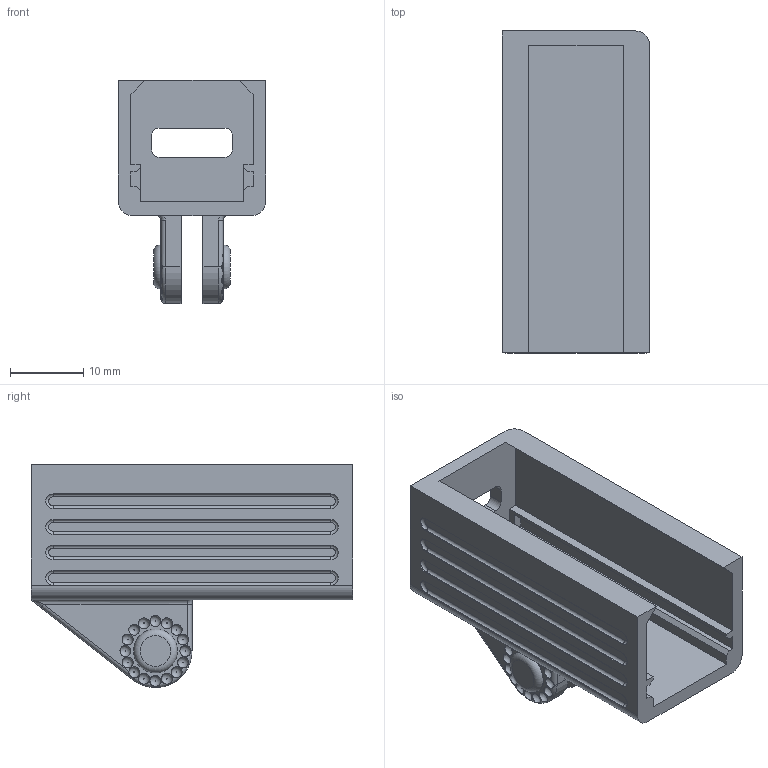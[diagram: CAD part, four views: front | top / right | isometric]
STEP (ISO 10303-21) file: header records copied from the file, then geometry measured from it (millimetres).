
FILE_DESCRIPTION(/* description */ ('Alibre Inc.'),/* implementation_level */ '2;1');
FILE_NAME(/* name */ 'export0',/* time_stamp */ '2018-08-03T14:55:19-04:00',/* author */ (''),/* organization */ (''),/* preprocessor_version */ 'ST-DEVELOPER v17',/* originating_system */ 'Alibre',/* authorisation */ '');
FILE_SCHEMA (('AUTOMOTIVE_DESIGN'));
Length unit declared in the file: millimetre
Bounding box: 20.2 x 44 x 30.5 mm (x, y, z)
Volume: 5775.9 mm3; surface area: 6795.8 mm2
Topology: 1 solids, 1 shells, 244 faces, 594 edges, 371 vertices
Faces by surface type: plane 99, cylinder 84, torus 55, bspline 4, sphere 2
Full cylindrical faces by diameter (mm): 1.5 x18, 6 x2
Entity records: 10414 total; most frequent: CARTESIAN_POINT 5138, ORIENTED_EDGE 1056, DIRECTION 1000, EDGE_CURVE 528, AXIS2_PLACEMENT_3D 471, VERTEX_POINT 361, EDGE_LOOP 321, FACE_BOUND 321
